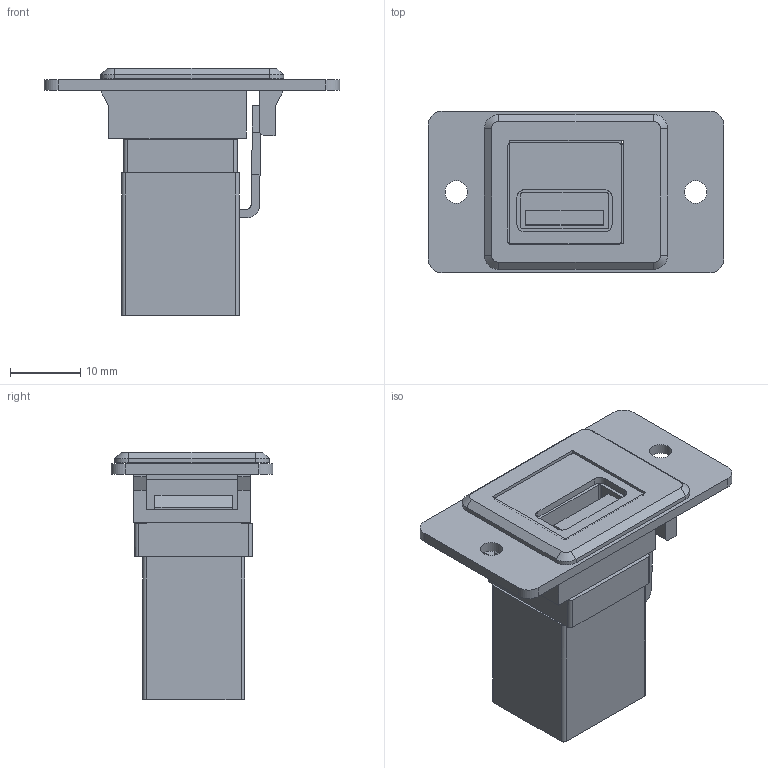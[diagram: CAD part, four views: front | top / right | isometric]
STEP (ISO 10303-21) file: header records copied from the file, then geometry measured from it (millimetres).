
FILE_DESCRIPTION(('FreeCAD Model'),'2;1');
FILE_NAME('Open CASCADE Shape Model','2026-05-19T14:15:57',(''),(''), 'Open CASCADE STEP processor 7.8','FreeCAD','Unknown');
FILE_SCHEMA(('AUTOMOTIVE_DESIGN { 1 0 10303 214 1 1 1 1 }'));
Length unit declared in the file: millimetre
Products named in the file (5): PMBST_USB3A_ST_BK; PMBZL-BK; TB-037_3013BUS12xx_SD; SIM-BZALPL-SL; TB-001_FAU3-AFAF180-xx-ABS_SD
Assembly tree (4 placements, depth 3):
  PMBST_USB3A_ST_BK
    PMBZL-BK
      TB-037_3013BUS12xx_SD
      SIM-BZALPL-SL
    TB-001_FAU3-AFAF180-xx-ABS_SD
Bounding box: 42 x 23 x 35.12 mm (x, y, z)
Volume: 9654 mm3; surface area: 7696.8 mm2
Topology: 3 solids, 3 shells, 184 faces, 507 edges, 334 vertices
Faces by surface type: bspline 164, plane 10, cylinder 10
Full cylindrical faces by diameter (mm): 3.2 x2
Entity records: 8189 total; most frequent: CARTESIAN_POINT 4787, ORIENTED_EDGE 1014, EDGE_CURVE 507, B_SPLINE_CURVE_WITH_KNOTS 453, VERTEX_POINT 334, FACE_BOUND 201, EDGE_LOOP 201, ADVANCED_FACE 184
